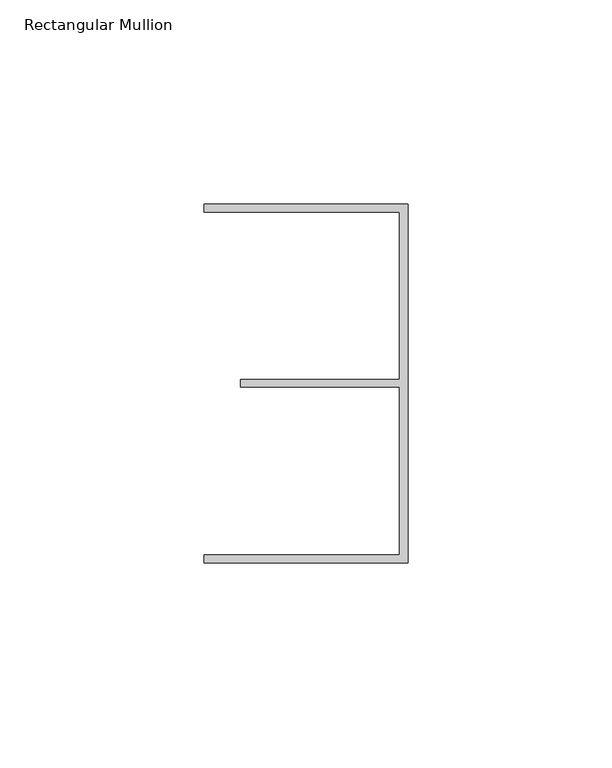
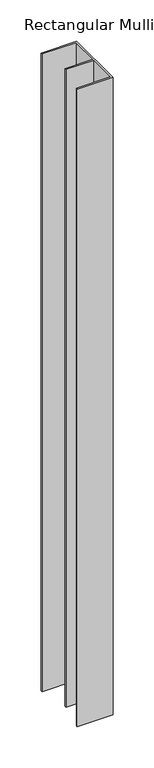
"""IFC4 building model written with IfcOpenShell, lengths in millimetres: member geometry, Rectangular Mullion : FLOOR_TRACK_CAP 94-KLS00-P80-SD41ALU."""

from ifc_helpers import new_model, si_unit, frame, origin, place, context, project, spatial, polyline, outline, extrude, source, transform, mapped, element, save


def rectangular_mullion_cce67675(model_context):
    return source(origin(), model_context, "Body", "SweptSolid", [
        extrude(outline(polyline([(0.0, -44.0), (-50.0, -44.0), (-50.0, -42.0), (-2.0, -42.0), (-2.0, -0.9316478), (-41.0, -0.9316478), (-41.0, 0.9316478), (-2.0, 0.9316478), (-2.0, 42.0), (-50.0, 42.0), (-50.0, 44.0), (0.0, 44.0), (0.0, -44.0)])), frame((0.0, 0.0, -944.3), z_axis=(0.0, 0.0, 1.0), x_axis=(1.0, 0.0, 0.0)), (0.0, 0.0, 1.0), 944.3),
    ])


if __name__ == "__main__":
    model = new_model("IFC4")
    model_context = context("Model", 3, world=origin())
    ifc_project = project(units=[si_unit("LENGTHUNIT", "METRE", prefix="MILLI")], contexts=[model_context])
    site = spatial("IfcSite", under=ifc_project)
    building = spatial("IfcBuilding", under=site)
    placement = place(None, origin())
    rectangular_mullion_shape = rectangular_mullion_cce67675(model_context)
    element("IfcMember", 1, ObjectType="Rectangular Mullion : FLOOR_TRACK_CAP 94-KLS00-P80-SD41ALU", at=placement, inside=building, context=model_context, shape_type="MappedRepresentation", body=[
        mapped(rectangular_mullion_shape, transform((0.0, 0.0, 0.0), x_axis=(1.0, 0.0, 0.0), y_axis=(0.0, 1.0, 0.0), z_axis=(0.0, 0.0, 1.0))),
    ])
    save(model, "model.ifc")
